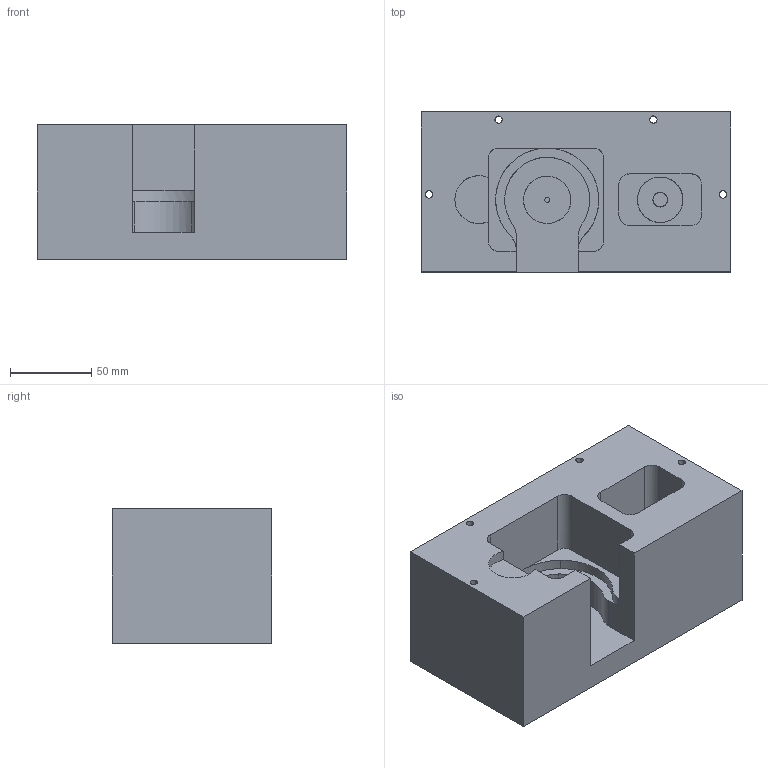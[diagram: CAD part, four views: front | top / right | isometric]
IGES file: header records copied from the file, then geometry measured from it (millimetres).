
Global section: file name: /Users/Pablo/Desktop/atomoptics:projects/laser_cover/drawings/igs/laser_mold_front2.igs; native system: VectorWorks; preprocessor: HarmonyWare IGES v1.6.3; date: 20100907.124144; units: millimetre
Bounding box: 190.5 x 98.42 x 82.55 mm (x, y, z)
Surface area: 115293.8 mm2 (no closed solid volume)
Topology: 0 solids, 0 shells, 75 faces, 488 edges, 472 vertices
Faces by surface type: bspline 75
